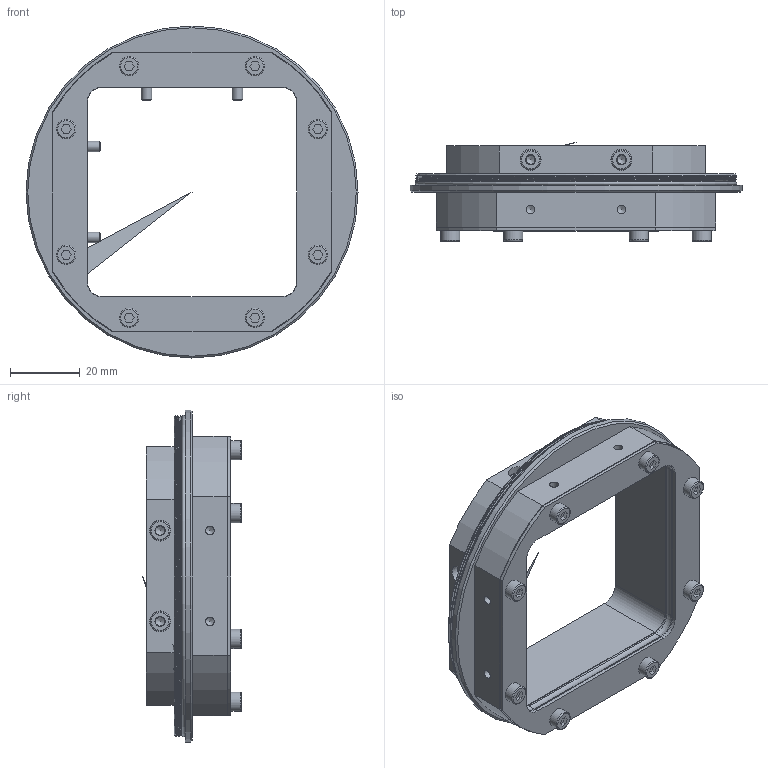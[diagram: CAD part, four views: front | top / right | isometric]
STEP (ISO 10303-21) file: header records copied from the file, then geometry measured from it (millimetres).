
FILE_DESCRIPTION(/* description */ ('Unknown'),/* implementation_level */ '2;1');
FILE_NAME(/* name */ '11704315_Tube Adapter E M92 hard anodized',/* time_stamp */ '2021-11-10T14:11:22+01:00',/* author */ ('Unknown'),/* organization */ ('Baumer'),/* preprocessor_version */ 'ST-DEVELOPER v16.7',/* originating_system */ 'Solid Edge',/* authorisation */ 'Unknown');
FILE_SCHEMA (('AUTOMOTIVE_DESIGN {1 0 10303 214 3 1 1}'));
Length unit declared in the file: millimetre
Products named in the file (7): D0001008423-BG Tube Adapter E M92 hard anodized; D0001008228-Adapter H1 IP - Schutzkappe D95; Schraube DIN912-ZK-I6K-M3 x 6-A2-csw; X-Ring 72.62 x 3.53 NBR; D0001008422-Adapter H1 IP - Dichtblech; O-Ring 90x1.0 EPDM; 11035972
Assembly tree (16 placements, depth 2):
  D0001008423-BG Tube Adapter E M92 hard anodized
    D0001008228-Adapter H1 IP - Schutzkappe D95
    Schraube DIN912-ZK-I6K-M3 x 6-A2-csw  x4
    X-Ring 72.62 x 3.53 NBR
    D0001008422-Adapter H1 IP - Dichtblech
    O-Ring 90x1.0 EPDM
    11035972  x8
Bounding box: 95 x 28.25 x 95 mm (x, y, z)
Volume: 54028.7 mm3; surface area: 31630 mm2
Topology: 16 solids, 16 shells, 376 faces, 860 edges, 541 vertices
Faces by surface type: plane 154, cylinder 132, torus 53, cone 35, bspline 2
Full cylindrical faces by diameter (mm): 2.459 x32, 3 x12, 3.2 x12, 5.5 x8, 5.68 x4, 6 x4, 90.5 x1, 95 x1
Entity records: 7931 total; most frequent: CARTESIAN_POINT 1961, DIRECTION 1146, ORIENTED_EDGE 846, AXIS2_PLACEMENT_3D 497, EDGE_CURVE 423, FACE_BOUND 369, EDGE_LOOP 351, VERTEX_POINT 312
